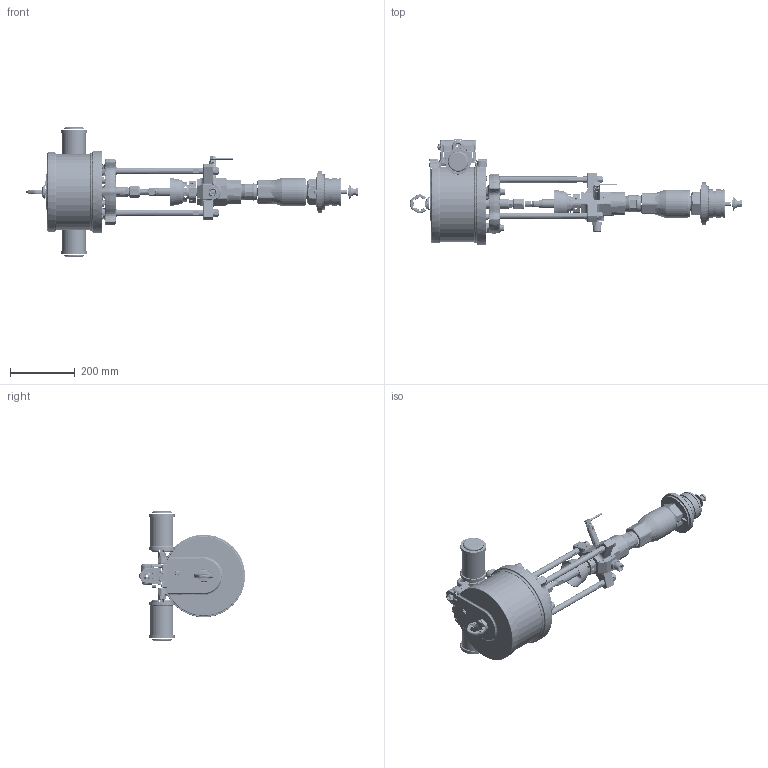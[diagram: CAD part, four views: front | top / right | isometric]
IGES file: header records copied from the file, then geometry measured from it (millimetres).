
Start section:  PTC IGES file: p61lcs-en-f.igs
Global section: file name: p61lcs-en-f.igs; native system: Creo Parametric by PTC Inc.; preprocessor: 2019030; author: qusrh3; organization: Unknown; date: 20200528.135441; units: inch
Bounding box: 1027.56 x 327.77 x 399.76 mm (x, y, z)
Surface area: 1118854.3 mm2 (no closed solid volume)
Topology: 0 solids, 0 shells, 3714 faces, 21144 edges, 21129 vertices
Faces by surface type: revolution 2104, bspline 1610
